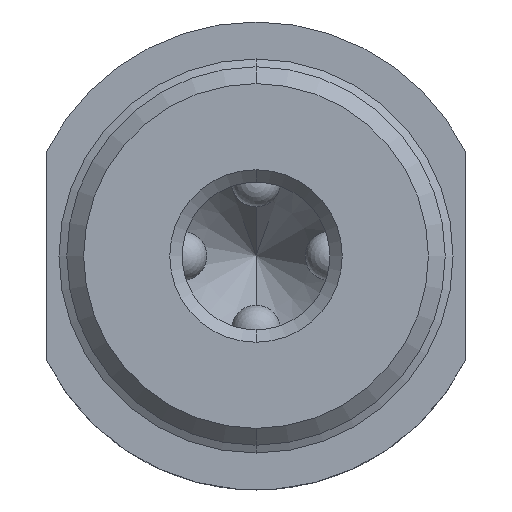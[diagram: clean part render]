
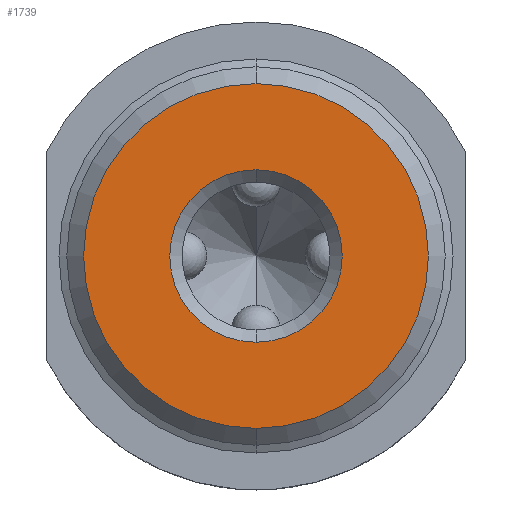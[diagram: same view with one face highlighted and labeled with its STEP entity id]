
A CAD part, front view. The second image highlights one B-rep face of the part: STEP entity #1739.
In plain terms, the highlighted planar face has unit normal (0, -1, 0).
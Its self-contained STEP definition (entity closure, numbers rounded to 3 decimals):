
#40 = DIRECTION ( 'NONE',  ( 0., 1., 0. ) ) ;
#58 = DIRECTION ( 'NONE',  ( 0., -1., 0. ) ) ;
#80 = CARTESIAN_POINT ( 'NONE',  ( 0., -29., 7. ) ) ;
#131 = CIRCLE ( 'NONE', #1747, 3.5 ) ;
#264 = DIRECTION ( 'NONE',  ( 0., 1., 0. ) ) ;
#275 = ORIENTED_EDGE ( 'NONE', *, *, #1106, .T. ) ;
#315 = FACE_BOUND ( 'NONE', #1934, .T. ) ;
#319 = CIRCLE ( 'NONE', #778, 3.5 ) ;
#330 = PLANE ( 'NONE',  #765 ) ;
#388 = CIRCLE ( 'NONE', #1037, 7. ) ;
#587 = VERTEX_POINT ( 'NONE', #80 ) ;
#650 = DIRECTION ( 'NONE',  ( 0., -1., 0. ) ) ;
#765 = AXIS2_PLACEMENT_3D ( 'NONE', #1751, #650, #1759 ) ;
#778 = AXIS2_PLACEMENT_3D ( 'NONE', #1624, #40, #813 ) ;
#813 = DIRECTION ( 'NONE',  ( 0., 0., -1. ) ) ;
#819 = VERTEX_POINT ( 'NONE', #1588 ) ;
#884 = FACE_OUTER_BOUND ( 'NONE', #2007, .T. ) ;
#1004 = CARTESIAN_POINT ( 'NONE',  ( 0., -29., 0. ) ) ;
#1024 = AXIS2_PLACEMENT_3D ( 'NONE', #1004, #58, #1963 ) ;
#1037 = AXIS2_PLACEMENT_3D ( 'NONE', #1354, #1847, #2015 ) ;
#1042 = ORIENTED_EDGE ( 'NONE', *, *, #1053, .T. ) ;
#1053 = EDGE_CURVE ( 'NONE', #1741, #1565, #319, .T. ) ;
#1080 = CARTESIAN_POINT ( 'NONE',  ( 0., -29., 0. ) ) ;
#1106 = EDGE_CURVE ( 'NONE', #587, #819, #1322, .T. ) ;
#1322 = CIRCLE ( 'NONE', #1024, 7. ) ;
#1354 = CARTESIAN_POINT ( 'NONE',  ( 0., -29., 0. ) ) ;
#1387 = DIRECTION ( 'NONE',  ( 0., 0., -1. ) ) ;
#1394 = CARTESIAN_POINT ( 'NONE',  ( 0., -29., 3.5 ) ) ;
#1565 = VERTEX_POINT ( 'NONE', #1394 ) ;
#1568 = EDGE_CURVE ( 'NONE', #1565, #1741, #131, .T. ) ;
#1588 = CARTESIAN_POINT ( 'NONE',  ( 0., -29., -7. ) ) ;
#1624 = CARTESIAN_POINT ( 'NONE',  ( 0., -29., 0. ) ) ;
#1639 = ORIENTED_EDGE ( 'NONE', *, *, #1568, .T. ) ;
#1739 = ADVANCED_FACE ( 'NONE', ( #315, #884 ), #330, .T. ) ;
#1741 = VERTEX_POINT ( 'NONE', #2055 ) ;
#1747 = AXIS2_PLACEMENT_3D ( 'NONE', #1080, #264, #1387 ) ;
#1751 = CARTESIAN_POINT ( 'NONE',  ( 0., -29., 0. ) ) ;
#1759 = DIRECTION ( 'NONE',  ( 0., 0., -1. ) ) ;
#1828 = ORIENTED_EDGE ( 'NONE', *, *, #2027, .T. ) ;
#1847 = DIRECTION ( 'NONE',  ( 0., -1., 0. ) ) ;
#1934 = EDGE_LOOP ( 'NONE', ( #1042, #1639 ) ) ;
#1963 = DIRECTION ( 'NONE',  ( 0., 0., -1. ) ) ;
#2007 = EDGE_LOOP ( 'NONE', ( #275, #1828 ) ) ;
#2015 = DIRECTION ( 'NONE',  ( 0., 0., -1. ) ) ;
#2027 = EDGE_CURVE ( 'NONE', #819, #587, #388, .T. ) ;
#2055 = CARTESIAN_POINT ( 'NONE',  ( 0., -29., -3.5 ) ) ;
